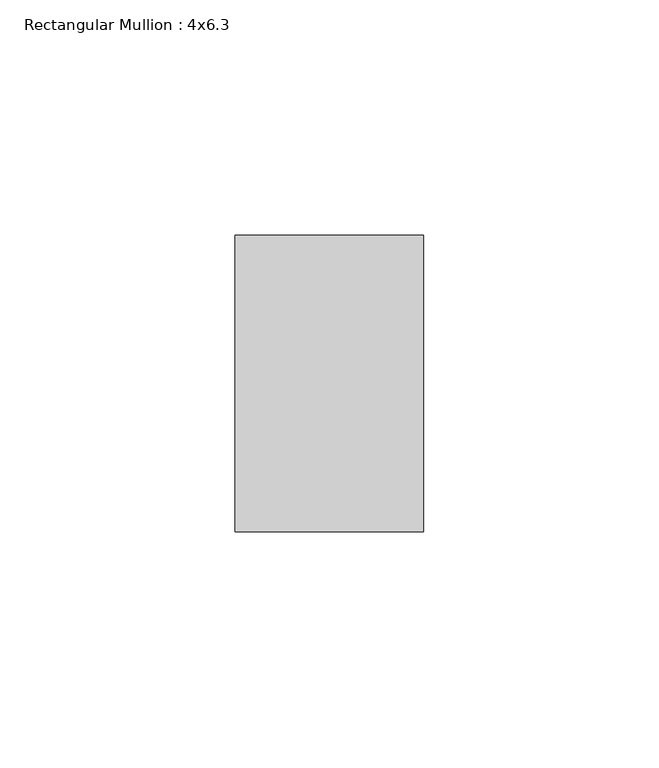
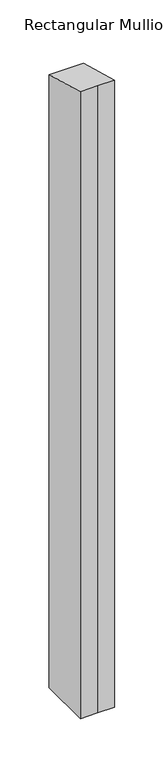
"""IFC4 building model written with IfcOpenShell, lengths in millimetres: member geometry, Rectangular Mullion : 4x6.3."""

from ifc_helpers import new_model, si_unit, origin, place, context, project, spatial, faceted_brep, source, transform, mapped, element, save


def rectangular_mullion_4x6_3_394ca9dd(model_context):
    return source(origin(), model_context, "Body", "Brep", [
        faceted_brep([(-20.0, 20.0, -779.9398143), (-20.0, 83.0, -779.9398143), (20.0, 83.0, -779.9398143), (20.0, 20.0, -779.9398143), (0.0, 20.0, -779.9398143), (0.0, 20.0, -5.4283368), (-20.0, 20.0, -5.4283368), (20.0, 20.0, -5.4283368), (20.0, 83.0, -22.5275978), (-20.0, 83.0, -22.5275978)], [[[0, 1, 2, 3, 4]], [[5, 6, 0, 4]], [[7, 5, 4, 3]], [[8, 7, 3, 2]], [[9, 8, 2, 1]], [[6, 9, 1, 0]], [[6, 5, 7, 8, 9]]]),
    ])


if __name__ == "__main__":
    model = new_model("IFC4")
    model_context = context("Model", 3, world=origin())
    ifc_project = project(units=[si_unit("LENGTHUNIT", "METRE", prefix="MILLI")], contexts=[model_context])
    site = spatial("IfcSite", under=ifc_project)
    building = spatial("IfcBuilding", under=site)
    placement = place(None, origin())
    rectangular_mullion_4x6_3_shape = rectangular_mullion_4x6_3_394ca9dd(model_context)
    element("IfcMember", 1, ObjectType="Rectangular Mullion : 4x6.3", at=placement, inside=building, context=model_context, shape_type="MappedRepresentation", body=[
        mapped(rectangular_mullion_4x6_3_shape, transform((0.0, 0.0, 0.0), x_axis=(1.0, 0.0, 0.0), y_axis=(0.0, 1.0, 0.0), z_axis=(0.0, 0.0, 1.0))),
    ])
    save(model, "model.ifc")
